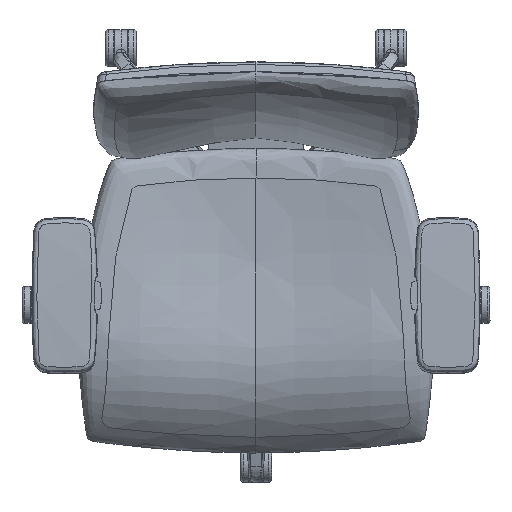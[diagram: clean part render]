
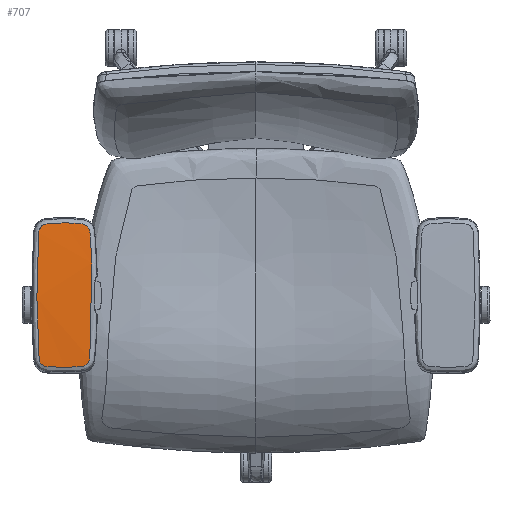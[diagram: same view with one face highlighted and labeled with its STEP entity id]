
A CAD part, top view. The second image highlights one B-rep face of the part: STEP entity #707.
In plain terms, the highlighted free-form (B-spline) face has degree [1, 2] with [2, 3] control points.
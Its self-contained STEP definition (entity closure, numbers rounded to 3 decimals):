
#707=ADVANCED_FACE('',(#1177),#6748,.T.);
#1177=FACE_OUTER_BOUND('',#1647,.T.);
#1647=EDGE_LOOP('',(#3068));
#3068=ORIENTED_EDGE('',*,*,#4488,.T.);
#4488=EDGE_CURVE('',#6333,#6333,#5790,.T.);
#5790=(
BOUNDED_CURVE()
B_SPLINE_CURVE(3,(#22813,#22814,#22815,#22816,#22817,#22818,#22819,#22820,
#22821,#22822,#22823,#22824,#22825,#22826,#22827,#22828,#22829,#22830,#22831,
#22832,#22833,#22834,#22835,#22836,#22837,#22838,#22839,#22840,#22841,#22842,
#22843,#22844,#22845,#22846,#22847,#22848,#22849,#22850,#22851,#22852,#22853,
#22854,#22855,#22856,#22857,#22858,#22859,#22860,#22861,#22862,#22863,#22864,
#22865,#22866,#22867,#22868,#22869,#22870,#22871,#22872,#22873,#22874,#22875,
#22876,#22877,#22878,#22879,#22880,#22881,#22882,#22883,#22884,#22885,#22886,
#22887,#22888,#22889,#22890,#22891,#22892,#22893,#22894,#22895,#22896,#22897,
#22898,#22899,#22900,#22901,#22902,#22903,#22904,#22905,#22906,#22907,#22908),
 .UNSPECIFIED.,.T.,.F.)
B_SPLINE_CURVE_WITH_KNOTS((4,3,3,3,1,1,1,3,3,3,3,1,1,1,3,3,3,3,1,3,3,3,
3,3,3,1,3,3,3,3,1,1,1,3,3,1,3,1,1,3,3,4),(0.,17.994,
22.459,26.53,30.983,35.353,39.691,
41.839,45.129,49.611,54.221,63.144,
136.728,211.306,220.327,224.932,229.372,
232.657,236.174,241.693,247.814,256.556,
292.533,296.999,301.014,309.926,316.501,
319.856,324.321,328.92,337.821,411.275,
485.72,494.715,499.312,503.598,507.054,
513.596,518.032,522.423,531.119,549.089),
 .UNSPECIFIED.)
CURVE()
GEOMETRIC_REPRESENTATION_ITEM()
RATIONAL_B_SPLINE_CURVE((1.,1.,1.,1.,1.,1.,
1.,1.,1.,1.,1.,1.,1.,1.,1.,
1.,1.,1.,1.,1.,1.,1.,1.,1.,1.,1.,1.,1.,1.,
1.,1.,1.,1.,1.,1.,1.,1.,1.,1.,1.,1.,
1.,1.,1.,1.,1.,1.,1.,1.,1.,1.,
1.,1.,1.,1.,1.,1.,1.,1.,1.,1.,1.,1.,1.,1.,
1.,1.,1.,1.,1.,1.,1.,1.,1.,1.,1.,1.,1.,1.,1.,1.,1.,
1.,1.,1.,1.,1.,1.,1.,1.,1.,
1.,1.,1.,1.,1.))
REPRESENTATION_ITEM('')
);
#6333=VERTEX_POINT('',#22443);
#6748=(
BOUNDED_SURFACE()
B_SPLINE_SURFACE(1,2,((#22427,#22428,#22429),(#22430,#22431,#22432)),
 .UNSPECIFIED.,.F.,.F.,.F.)
B_SPLINE_SURFACE_WITH_KNOTS((2,2),(3,3),(0.,236.445),(-112.675,
297.535),.UNSPECIFIED.)
GEOMETRIC_REPRESENTATION_ITEM()
RATIONAL_B_SPLINE_SURFACE(((1.,0.993,1.),(1.,0.993,
1.)))
REPRESENTATION_ITEM('')
SURFACE()
);
#22427=CARTESIAN_POINT('',(-401.382,-281.156,666.864));
#22428=CARTESIAN_POINT('',(-401.382,-75.747,683.83));
#22429=CARTESIAN_POINT('',(-401.382,127.757,651.177));
#22430=CARTESIAN_POINT('',(-164.937,-281.156,666.864));
#22431=CARTESIAN_POINT('',(-164.937,-75.747,683.83));
#22432=CARTESIAN_POINT('',(-164.937,127.757,651.177));
#22443=CARTESIAN_POINT('',(-283.162,32.245,663.736));
#22813=CARTESIAN_POINT('',(-283.162,32.245,663.736));
#22814=CARTESIAN_POINT('',(-289.16,32.246,663.736));
#22815=CARTESIAN_POINT('',(-295.158,32.021,663.759));
#22816=CARTESIAN_POINT('',(-301.139,31.566,663.805));
#22817=CARTESIAN_POINT('',(-302.623,31.453,663.817));
#22818=CARTESIAN_POINT('',(-304.106,31.332,663.829));
#22819=CARTESIAN_POINT('',(-305.587,31.183,663.845));
#22820=CARTESIAN_POINT('',(-306.936,31.042,663.859));
#22821=CARTESIAN_POINT('',(-308.294,30.962,663.867));
#22822=CARTESIAN_POINT('',(-309.631,30.723,663.891));
#22823=CARTESIAN_POINT('',(-311.087,30.451,663.919));
#22824=CARTESIAN_POINT('',(-313.91,29.49,664.017));
#22825=CARTESIAN_POINT('',(-317.407,26.739,664.293));
#22826=CARTESIAN_POINT('',(-319.37,23.641,664.599));
#22827=CARTESIAN_POINT('',(-320.075,21.594,664.796));
#22828=CARTESIAN_POINT('',(-320.263,20.903,664.862));
#22829=CARTESIAN_POINT('',(-320.549,19.844,664.964));
#22830=CARTESIAN_POINT('',(-320.702,18.753,665.068));
#22831=CARTESIAN_POINT('',(-320.789,17.661,665.17));
#22832=CARTESIAN_POINT('',(-320.907,16.172,665.31));
#22833=CARTESIAN_POINT('',(-320.971,14.679,665.449));
#22834=CARTESIAN_POINT('',(-321.056,13.188,665.585));
#22835=CARTESIAN_POINT('',(-321.143,11.654,665.725));
#22836=CARTESIAN_POINT('',(-321.224,10.119,665.863));
#22837=CARTESIAN_POINT('',(-321.304,8.584,665.999));
#22838=CARTESIAN_POINT('',(-321.458,5.613,666.263));
#22839=CARTESIAN_POINT('',(-322.81,-21.868,668.625));
#22840=CARTESIAN_POINT('',(-324.033,-74.36,671.851));
#22841=CARTESIAN_POINT('',(-322.817,-126.976,672.776));
#22842=CARTESIAN_POINT('',(-321.443,-154.923,672.577));
#22843=CARTESIAN_POINT('',(-321.286,-157.938,672.548));
#22844=CARTESIAN_POINT('',(-321.205,-159.477,672.533));
#22845=CARTESIAN_POINT('',(-321.125,-161.017,672.515));
#22846=CARTESIAN_POINT('',(-321.037,-162.556,672.496));
#22847=CARTESIAN_POINT('',(-320.951,-164.039,672.478));
#22848=CARTESIAN_POINT('',(-320.893,-165.524,672.457));
#22849=CARTESIAN_POINT('',(-320.768,-167.005,672.435));
#22850=CARTESIAN_POINT('',(-320.673,-168.099,672.418));
#22851=CARTESIAN_POINT('',(-320.506,-169.191,672.401));
#22852=CARTESIAN_POINT('',(-320.213,-170.251,672.383));
#22853=CARTESIAN_POINT('',(-319.897,-171.383,672.363));
#22854=CARTESIAN_POINT('',(-318.761,-174.212,672.312));
#22855=CARTESIAN_POINT('',(-316.703,-176.518,672.265));
#22856=CARTESIAN_POINT('',(-315.196,-177.578,672.242));
#22857=CARTESIAN_POINT('',(-313.524,-178.753,672.217));
#22858=CARTESIAN_POINT('',(-311.58,-179.533,672.199));
#22859=CARTESIAN_POINT('',(-309.563,-179.845,672.192));
#22860=CARTESIAN_POINT('',(-306.682,-180.287,672.182));
#22861=CARTESIAN_POINT('',(-303.771,-180.488,672.177));
#22862=CARTESIAN_POINT('',(-300.867,-180.715,672.172));
#22863=CARTESIAN_POINT('',(-288.909,-181.629,672.151));
#22864=CARTESIAN_POINT('',(-276.881,-181.6,672.152));
#22865=CARTESIAN_POINT('',(-264.925,-180.673,672.173));
#22866=CARTESIAN_POINT('',(-263.441,-180.557,672.176));
#22867=CARTESIAN_POINT('',(-261.957,-180.432,672.179));
#22868=CARTESIAN_POINT('',(-260.476,-180.281,672.182));
#22869=CARTESIAN_POINT('',(-259.146,-180.14,672.185));
#22870=CARTESIAN_POINT('',(-257.806,-180.059,672.187));
#22871=CARTESIAN_POINT('',(-256.49,-179.81,672.193));
#22872=CARTESIAN_POINT('',(-253.571,-179.263,672.205));
#22873=CARTESIAN_POINT('',(-248.8,-176.644,672.265));
#22874=CARTESIAN_POINT('',(-246.274,-171.937,672.355));
#22875=CARTESIAN_POINT('',(-245.673,-169.828,672.39));
#22876=CARTESIAN_POINT('',(-245.365,-168.748,672.408));
#22877=CARTESIAN_POINT('',(-245.194,-167.633,672.425));
#22878=CARTESIAN_POINT('',(-245.076,-166.518,672.442));
#22879=CARTESIAN_POINT('',(-244.92,-165.031,672.464));
#22880=CARTESIAN_POINT('',(-244.823,-163.54,672.484));
#22881=CARTESIAN_POINT('',(-244.703,-162.051,672.502));
#22882=CARTESIAN_POINT('',(-244.58,-160.516,672.521));
#22883=CARTESIAN_POINT('',(-244.466,-158.981,672.538));
#22884=CARTESIAN_POINT('',(-244.352,-157.445,672.552));
#22885=CARTESIAN_POINT('',(-244.133,-154.475,672.58));
#22886=CARTESIAN_POINT('',(-242.213,-126.977,672.769));
#22887=CARTESIAN_POINT('',(-240.477,-74.491,671.855));
#22888=CARTESIAN_POINT('',(-242.201,-22.061,668.643));
#22889=CARTESIAN_POINT('',(-244.152,5.696,666.255));
#22890=CARTESIAN_POINT('',(-244.374,8.687,665.99));
#22891=CARTESIAN_POINT('',(-244.488,10.215,665.855));
#22892=CARTESIAN_POINT('',(-244.602,11.743,665.717));
#22893=CARTESIAN_POINT('',(-244.726,13.27,665.578));
#22894=CARTESIAN_POINT('',(-244.847,14.694,665.447));
#22895=CARTESIAN_POINT('',(-244.994,17.271,665.209));
#22896=CARTESIAN_POINT('',(-245.39,19.827,664.966));
#22897=CARTESIAN_POINT('',(-245.724,20.931,664.86));
#22898=CARTESIAN_POINT('',(-246.344,23.018,664.66));
#22899=CARTESIAN_POINT('',(-248.171,26.307,664.337));
#22900=CARTESIAN_POINT('',(-252.303,29.457,664.02));
#22901=CARTESIAN_POINT('',(-255.117,30.427,663.922));
#22902=CARTESIAN_POINT('',(-256.563,30.667,663.897));
#22903=CARTESIAN_POINT('',(-259.425,31.134,663.85));
#22904=CARTESIAN_POINT('',(-262.323,31.317,663.831));
#22905=CARTESIAN_POINT('',(-265.21,31.552,663.807));
#22906=CARTESIAN_POINT('',(-271.182,32.027,663.758));
#22907=CARTESIAN_POINT('',(-277.173,32.237,663.737));
#22908=CARTESIAN_POINT('',(-283.162,32.245,663.736));
